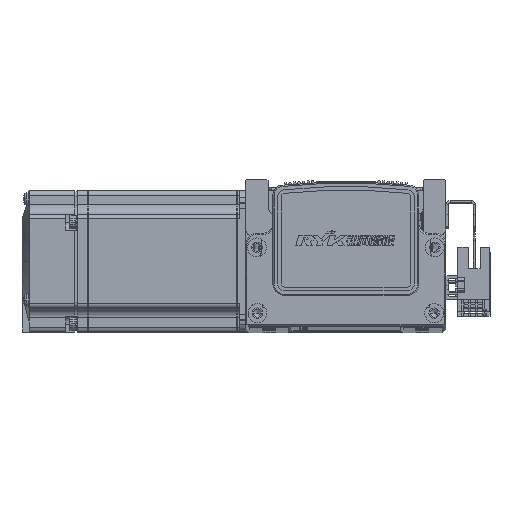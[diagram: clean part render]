
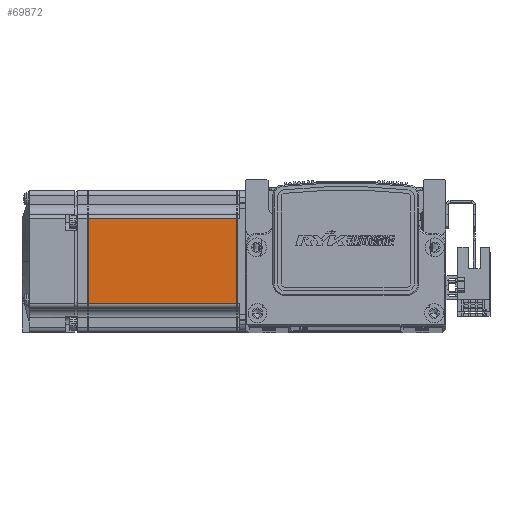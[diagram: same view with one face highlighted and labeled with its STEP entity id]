
A CAD part, top view. The second image highlights one B-rep face of the part: STEP entity #69872.
In plain terms, the highlighted planar face has unit normal (0, 0, 1) as drawn and (0, 0, -1) by its records, which use the part's own axes.
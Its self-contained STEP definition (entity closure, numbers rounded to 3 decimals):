
#7120 = ORIENTED_EDGE ( 'NONE', *, *, #63927, .T. ) ;
#7124 = ORIENTED_EDGE ( 'NONE', *, *, #63928, .T. ) ;
#7219 = ORIENTED_EDGE ( 'NONE', *, *, #63892, .T. ) ;
#7222 = ORIENTED_EDGE ( 'NONE', *, *, #63866, .T. ) ;
#7550 = AXIS2_PLACEMENT_3D ( 'NONE', #42772, #42756, #42787 ) ;
#19265 = LINE ( 'NONE', #69158, #19267 ) ;
#19267 = VECTOR ( 'NONE', #69245, 1000. ) ;
#19318 = VECTOR ( 'NONE', #69359, 1000. ) ;
#19324 = LINE ( 'NONE', #69337, #19318 ) ;
#19361 = VECTOR ( 'NONE', #69589, 1000. ) ;
#19364 = LINE ( 'NONE', #69567, #19361 ) ;
#19368 = VECTOR ( 'NONE', #69584, 1000. ) ;
#19456 = LINE ( 'NONE', #69557, #19368 ) ;
#29234 = EDGE_LOOP ( 'NONE', ( #7219, #7124, #7222, #7120 ) ) ;
#32397 = CARTESIAN_POINT ( 'NONE',  ( -7.75, -18., -30. ) ) ;
#32407 = CARTESIAN_POINT ( 'NONE',  ( -7.75, 18., -30. ) ) ;
#32433 = CARTESIAN_POINT ( 'NONE',  ( -70.95, 18., -30. ) ) ;
#32568 = CARTESIAN_POINT ( 'NONE',  ( -70.95, -18., -30. ) ) ;
#34550 = FACE_OUTER_BOUND ( 'NONE', #29234, .T. ) ;
#42756 = DIRECTION ( 'NONE',  ( 0., 0., -1. ) ) ;
#42772 = CARTESIAN_POINT ( 'NONE',  ( -6.5, 25., -30. ) ) ;
#42786 = PLANE ( 'NONE',  #7550 ) ;
#42787 = DIRECTION ( 'NONE',  ( -1., 0., 0. ) ) ;
#52993 = VERTEX_POINT ( 'NONE', #32397 ) ;
#53000 = VERTEX_POINT ( 'NONE', #32433 ) ;
#53001 = VERTEX_POINT ( 'NONE', #32407 ) ;
#53027 = VERTEX_POINT ( 'NONE', #32568 ) ;
#63866 = EDGE_CURVE ( 'NONE', #53027, #53000, #19265, .T. ) ;
#63892 = EDGE_CURVE ( 'NONE', #53001, #52993, #19324, .T. ) ;
#63927 = EDGE_CURVE ( 'NONE', #53000, #53001, #19364, .T. ) ;
#63928 = EDGE_CURVE ( 'NONE', #52993, #53027, #19456, .T. ) ;
#69158 = CARTESIAN_POINT ( 'NONE',  ( -70.95, 25., -30. ) ) ;
#69245 = DIRECTION ( 'NONE',  ( 0., 1., 0. ) ) ;
#69337 = CARTESIAN_POINT ( 'NONE',  ( -7.75, 25., -30. ) ) ;
#69359 = DIRECTION ( 'NONE',  ( 0., -1., 0. ) ) ;
#69557 = CARTESIAN_POINT ( 'NONE',  ( -6.5, -18., -30. ) ) ;
#69567 = CARTESIAN_POINT ( 'NONE',  ( -6.5, 18., -30. ) ) ;
#69584 = DIRECTION ( 'NONE',  ( -1., 0., 0. ) ) ;
#69589 = DIRECTION ( 'NONE',  ( 1., 0., 0. ) ) ;
#69872 = ADVANCED_FACE ( 'NONE', ( #34550 ), #42786, .T. ) ;
